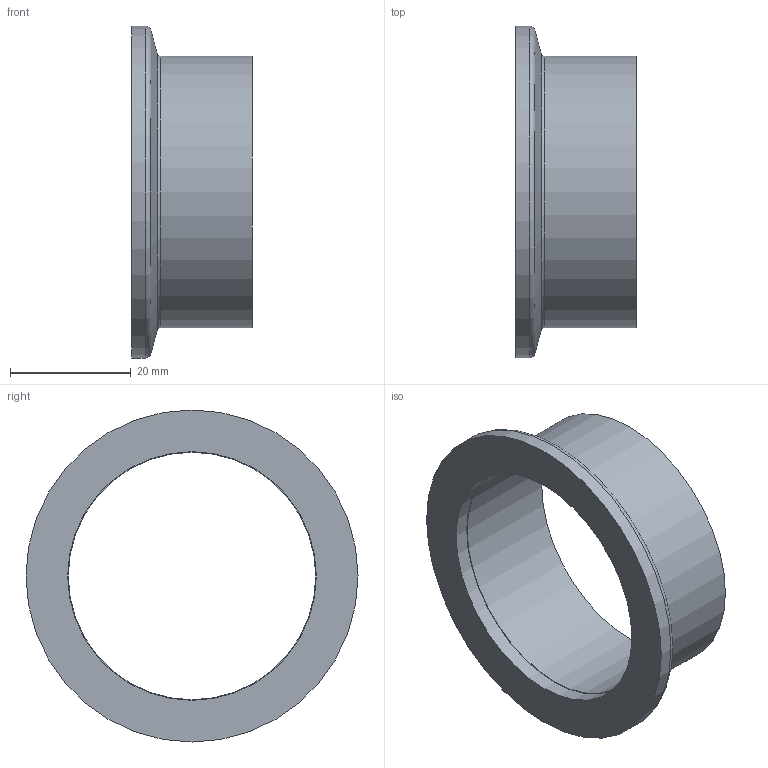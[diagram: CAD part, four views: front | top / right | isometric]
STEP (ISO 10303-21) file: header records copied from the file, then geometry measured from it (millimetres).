
FILE_DESCRIPTION((''),'2;1');
FILE_NAME('W:\3D-Modelle Inficon-Katalog\Derivate_2\M211-829.stp','2012-04-17T13:30:46',('KAA'),(''),'Autodesk Inventor 2012','Autodesk Inventor 2012','');
FILE_SCHEMA(('AUTOMOTIVE_DESIGN { 1 0 10303 214 1 1 1 1 }'));
Length unit declared in the file: millimetre
Products named in the file (1): M211-829
Bounding box: 20 x 55 x 55 mm (x, y, z)
Volume: 8222.4 mm3; surface area: 7390.4 mm2
Topology: 1 solids, 1 shells, 10 faces, 17 edges, 10 vertices
Faces by surface type: cylinder 4, plane 3, torus 2, cone 1
Full cylindrical faces by diameter (mm): 41 x1, 41.2 x1, 45 x1, 55 x1
Entity records: 234 total; most frequent: DIRECTION 42, CARTESIAN_POINT 31, AXIS2_PLACEMENT_3D 21, ORIENTED_EDGE 20, EDGE_LOOP 20, VERTEX_POINT 10, CIRCLE 10, EDGE_CURVE 10
